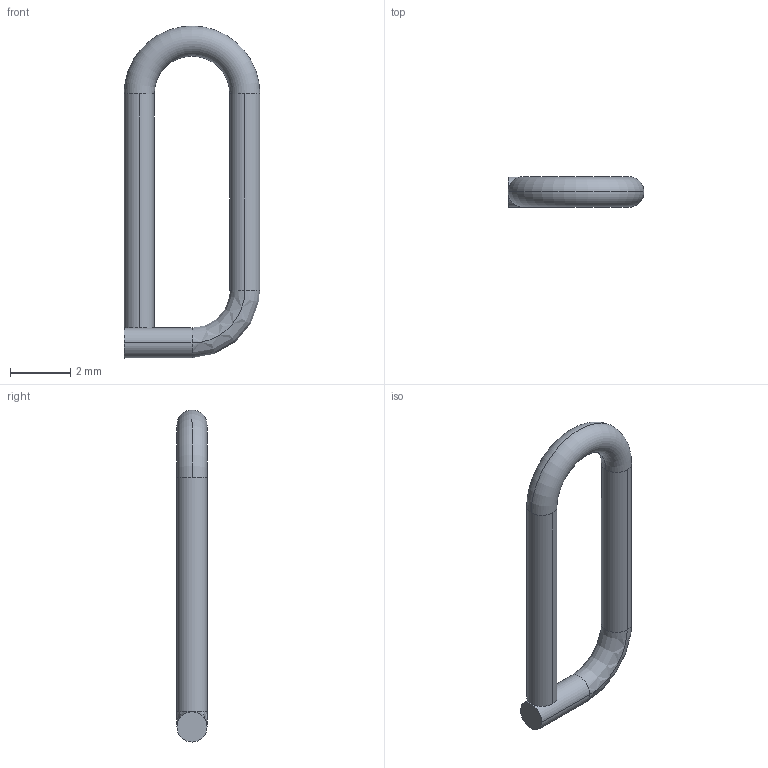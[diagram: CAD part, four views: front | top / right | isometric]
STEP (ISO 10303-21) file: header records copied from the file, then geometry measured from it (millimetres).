
FILE_DESCRIPTION(('STEP AP214'),'1');
FILE_NAME('tmp0.STEP','2026-06-08T18:47:57',(' '),(' '),'Spatial InterOp 3D',' ',' ');
FILE_SCHEMA(('AUTOMOTIVE_DESIGN { 1 0 10303 214 1 1 1 1 }'));
Length unit declared in the file: millimetre
Products named in the file (1): 1
Bounding box: 4.5 x 1 x 11 mm (x, y, z)
Volume: 19.4 mm3; surface area: 79.3 mm2
Topology: 1 solids, 1 shells, 12 faces, 26 edges, 16 vertices
Faces by surface type: cylinder 6, revolution 2, torus 2, plane 2
Entity records: 395 total; most frequent: CARTESIAN_POINT 89, DIRECTION 70, ORIENTED_EDGE 52, AXIS2_PLACEMENT_3D 31, EDGE_CURVE 26, CIRCLE 20, VERTEX_POINT 16, ADVANCED_FACE 12
